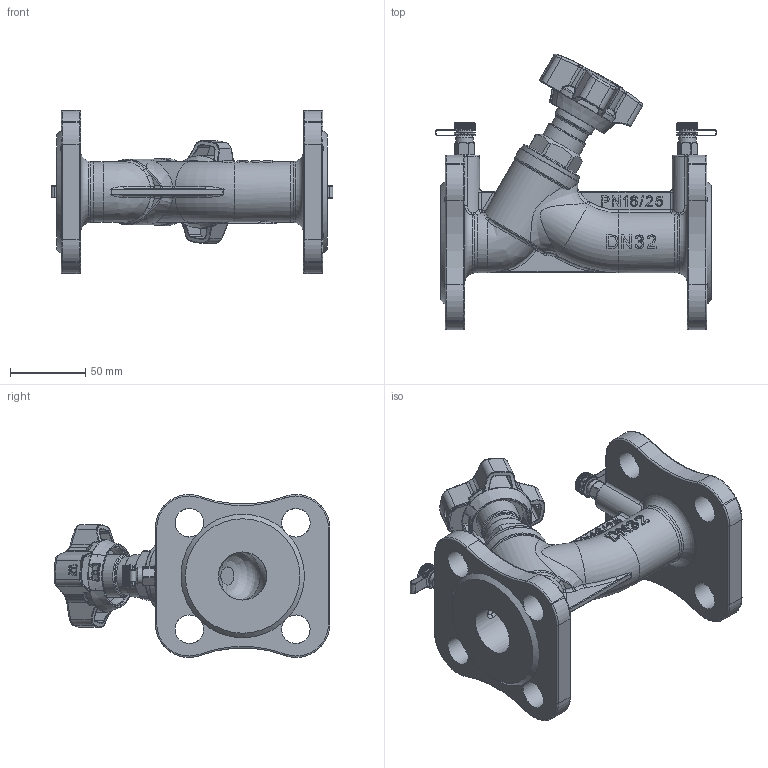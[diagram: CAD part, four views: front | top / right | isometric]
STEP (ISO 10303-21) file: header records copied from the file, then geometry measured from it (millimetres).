
FILE_DESCRIPTION(/* description */ ('STEP AP203'),/* implementation_level */ '2;1');
FILE_NAME(/* name */ 'RSV55 DN32.stp',/* time_stamp */ '2024-09-17T14:54:21+07:00',/* author */ ('Eva'),/* organization */ (''),/* preprocessor_version */ 'ST-DEVELOPER v20',/* originating_system */ 'Autodesk Inventor 2025',/* authorisation */ '');
FILE_SCHEMA (('AUTOMOTIVE_DESIGN { 1 0 10303 214 3 1 1 }'));
Products named in the file (10): CM003003200 丹弗斯; CM003003201 丹弗斯; 20503-32-00-z 丹弗斯; 取压咀; 取压咀帽; 取压咀主体-30; 膨胀体; 橡胶扣; O 型圈; O 型圈 8x1
Assembly tree (10 placements, depth 3):
  CM003003200 丹弗斯
    CM003003201 丹弗斯
    20503-32-00-z 丹弗斯
    取压咀  x2
      取压咀帽
      取压咀主体-30
      膨胀体
      橡胶扣
      O 型圈
      O 型圈 8x1
Bounding box: 187.2 x 183.22 x 108.33 mm (x, y, z)
Volume: 481558.3 mm3; surface area: 157500.5 mm2
Topology: 19 solids, 19 shells, 5178 faces, 14153 edges, 9233 vertices
Faces by surface type: plane 2649, bspline 1157, cylinder 662, cone 437, torus 241, sphere 32
Full cylindrical faces by diameter (mm): 1.5 x4, 5 x2, 5.9 x1, 6 x3, 7.2 x1, 7.9 x2, 8 x5, 8.9 x10, 8.917 x8, 9 x2, 9.983 x6, 10 x16, 11.5 x12, 11.6 x1, 11.7 x4, 11.8 x2, 12.3 x1, 13.5 x3, 14 x3, 17 x1, 17.3 x1, 17.8 x1, 19 x8, 20.5 x1, 21 x1, 21.3 x1, 22 x1, 22.5 x1, 23.5 x1, 25 x1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
Entity records: 203065 total; most frequent: CARTESIAN_POINT 92462, ORIENTED_EDGE 25246, DIRECTION 20418, EDGE_CURVE 12623, VERTEX_POINT 8240, AXIS2_PLACEMENT_3D 7607, LINE 5204, VECTOR 5204
